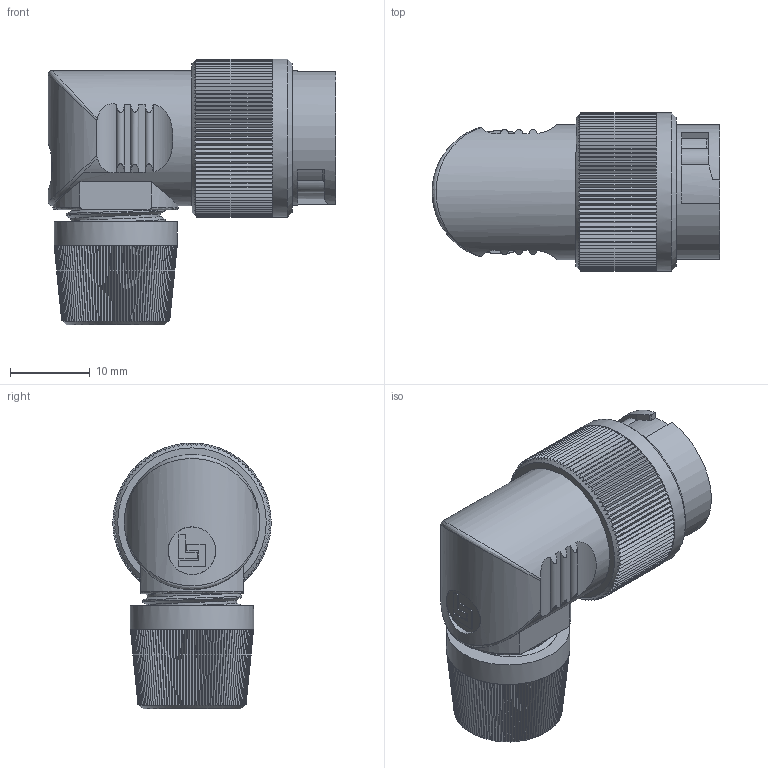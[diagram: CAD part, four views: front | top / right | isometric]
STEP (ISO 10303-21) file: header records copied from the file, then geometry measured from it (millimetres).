
FILE_DESCRIPTION(/* description */ (''),/* implementation_level */ '2;1');
FILE_NAME(/* name */ '99-0606-70-03_001-WD.stp',/* time_stamp */ '2017-12-08T12:23:22+01:00',/* author */ (''),/* organization */ (''),/* preprocessor_version */ 'ST-DEVELOPER v16',/* originating_system */ 'SIEMENS PLM Software NX 11.0',/* authorisation */ '');
FILE_SCHEMA (('AUTOMOTIVE_DESIGN { 1 0 10303 214 3 1 1 1 }'));
Length unit declared in the file: millimetre
Products named in the file (1): mfur12A8DDDCmqtn
Bounding box: 36.2 x 19.9 x 33.45 mm (x, y, z)
Volume: 10352.5 mm3; surface area: 4952.2 mm2
Topology: 1 solids, 2 shells, 940 faces, 2519 edges, 1600 vertices
Faces by surface type: plane 758, cone 122, cylinder 50, bspline 5, torus 5
Full cylindrical faces by diameter (mm): 2.25 x1, 6 x2, 13.95 x1, 15.5 x1, 16.95 x1, 17 x1, 19.9 x1
Entity records: 31001 total; most frequent: CARTESIAN_POINT 8726, ORIENTED_EDGE 4992, DIRECTION 4161, EDGE_CURVE 2496, VERTEX_POINT 1592, AXIS2_PLACEMENT_3D 1465, LINE 1231, VECTOR 1231
